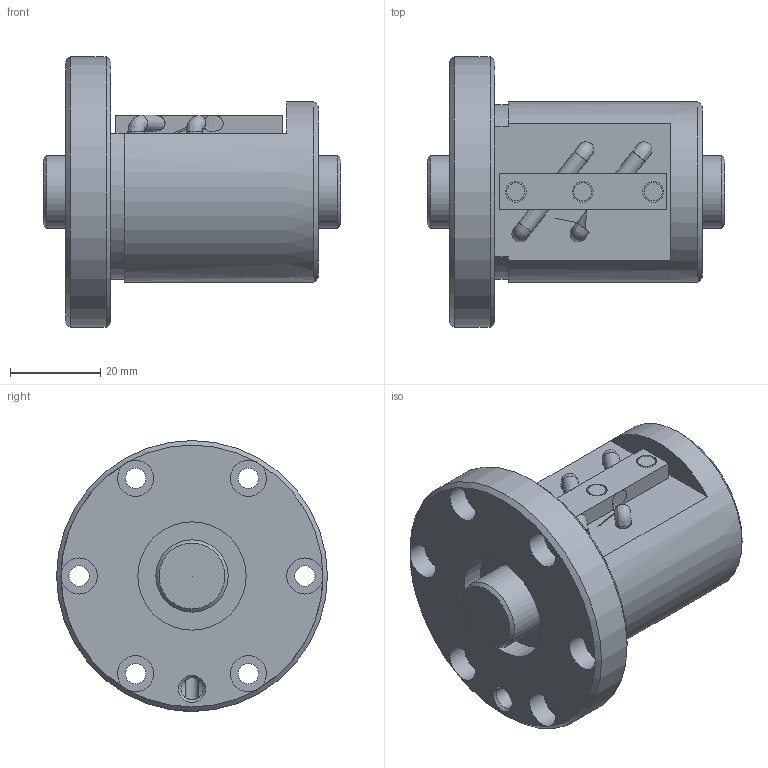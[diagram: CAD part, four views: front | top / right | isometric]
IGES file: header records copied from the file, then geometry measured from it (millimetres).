
Start section: Data from Parasolid IGES Translator 26.0.171, Copyright(c) 2006 Siemens PLM Software. All Rights Reserved.
Global section: file name: BIF1605V-5RRG0+66LC0_000.igs; native system: By Siemens PLM Incorporated; preprocessor: XPlus GENERIC/IGES 26.0.171; author: Noname; organization: Noname; date: 20240715.081636; units: millimetre
Bounding box: 66 x 60 x 60 mm (x, y, z)
Surface area: 21528.3 mm2 (no closed solid volume)
Topology: 0 solids, 0 shells, 98 faces, 462 edges, 414 vertices
Faces by surface type: revolution 57, extrusion 41
